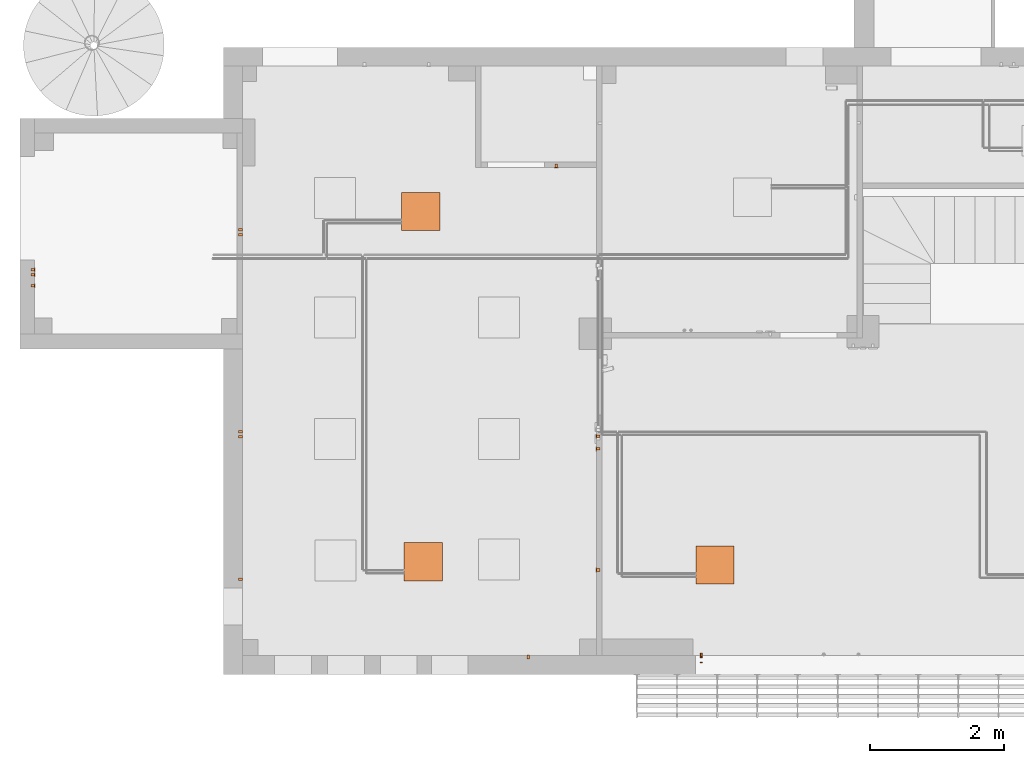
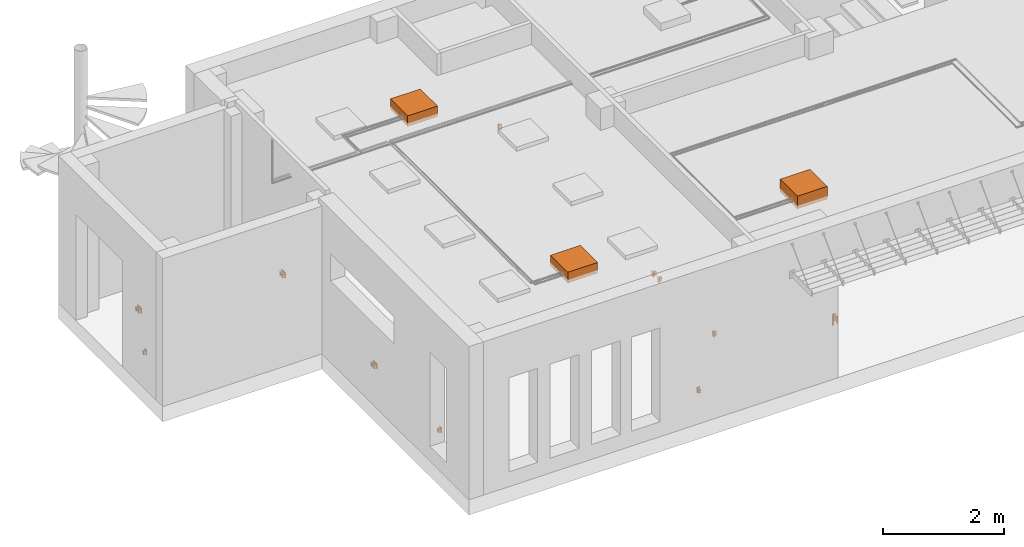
# One storey, part 20 of 24: 17 proxies.
"""IFC2X3 building model written with IfcOpenShell, lengths in millimetres."""

import ifcopenshell
import ifcopenshell.guid

model = None  # the IFC model being written
_history = None  # IfcOwnerHistory: only IFC2X3 demands one
_inside = {}  # id of a spatial element -> (the spatial element, [elements in it])
_under = {}  # id of a project, library or spatial element -> (it, [spatial elements below it])
_declared = {}  # id of a project -> (the project, [libraries it declares])
_typed = {}  # id of a type object -> (the type object, [elements of that type])
_made_of = {}  # id of a material, layer set ... -> (it, [elements and type objects made of it])


def new_model(schema):
    """Start an empty IFC model of exactly this schema.

    Asked for "IFC4X3", IfcOpenShell would pick the latest addendum, in which some entities
    have other attributes; the version numbers below select the first issue.
    IFC2X3 requires an IfcOwnerHistory on every rooted entity: one is made here for all.
    """
    global model, _history
    if schema == "IFC4X3":
        model = ifcopenshell.file(schema_version=(4, 3, 0, 0))
    else:
        model = ifcopenshell.file(schema=schema)
    _inside.clear()
    _under.clear()
    _declared.clear()
    _typed.clear()
    _made_of.clear()
    _history = None
    if model.schema == "IFC2X3":
        org = make("IfcOrganization", Name="unknown")
        user = make(
            "IfcPersonAndOrganization",
            ThePerson=make("IfcPerson", FamilyName="unknown"),
            TheOrganization=org,
        )
        app = make(
            "IfcApplication",
            ApplicationDeveloper=org,
            Version="unknown",
            ApplicationFullName="unknown",
            ApplicationIdentifier="unknown",
        )
        _history = make(
            "IfcOwnerHistory",
            OwningUser=user,
            OwningApplication=app,
            ChangeAction="ADDED",
            CreationDate=0,
        )
    return model


def make(cls, **values):
    """One entity of the class cls with the attributes given. An attribute that is None is left unset."""
    return model.create_entity(
        cls, **{name: value for name, value in values.items() if value is not None}
    )


def entity(cls, *values):
    """Any entity or typed value of the class cls, its attributes in the order of the schema. None: left unset."""
    e = model.create_entity(cls)
    for i, value in enumerate(values):
        if value is not None:
            e[i] = value
    return e


def rooted(cls, **values):
    """An entity with a GlobalId (a new one), such as an element, a storey or a relation."""
    return make(cls, GlobalId=ifcopenshell.guid.new(), OwnerHistory=_history, **values)


def si_unit(unit_type, name, prefix=None):
    """IfcSIUnit, for example si_unit("LENGTHUNIT", "METRE", prefix="MILLI")."""
    return make("IfcSIUnit", UnitType=unit_type, Prefix=prefix, Name=name)


def converted_unit(unit_type, name, factor, base, dimensions=None, offset=None):
    """IfcConversionBasedUnit, such as the inch: factor (a typed value) times the base unit."""
    return make(
        "IfcConversionBasedUnit"
        if offset is None
        else "IfcConversionBasedUnitWithOffset",
        ConversionOffset=offset,
        Dimensions=None
        if dimensions is None
        else entity("IfcDimensionalExponents", *dimensions),
        UnitType=unit_type,
        Name=name,
        ConversionFactor=make(
            "IfcMeasureWithUnit", ValueComponent=factor, UnitComponent=base
        ),
    )


def derived_unit(unit_type, elements):
    """IfcDerivedUnit: a product of units, each with its exponent."""
    return make(
        "IfcDerivedUnit",
        Elements=[
            make("IfcDerivedUnitElement", Unit=unit, Exponent=power)
            for unit, power in elements
        ],
        UnitType=unit_type,
    )


def assignment(units):
    """IfcUnitAssignment: the units of a project."""
    return None if units is None else make("IfcUnitAssignment", Units=units)


def point(xyz):
    """IfcCartesianPoint."""
    return None if xyz is None else make("IfcCartesianPoint", Coordinates=xyz)


def direction(xyz):
    """IfcDirection."""
    return None if xyz is None else make("IfcDirection", DirectionRatios=xyz)


def frame(location, z_axis=None, x_axis=None):
    """IfcAxis2Placement3D, a coordinate frame: its origin and axes. An axis left out is left unset."""
    return make(
        "IfcAxis2Placement3D",
        Location=point(location),
        Axis=direction(z_axis),
        RefDirection=direction(x_axis),
    )


def frame_2d(location, x_axis=None):
    """IfcAxis2Placement2D, a coordinate frame in the plane: its origin and x axis."""
    return make(
        "IfcAxis2Placement2D", Location=point(location), RefDirection=direction(x_axis)
    )


def origin():
    """The frame at (0, 0, 0) with its axes left unset."""
    return frame((0.0, 0.0, 0.0))


def origin_2d_with_axis():
    """The frame at (0, 0) in the plane with the x axis (1, 0) written out."""
    return frame_2d((0.0, 0.0), x_axis=(1.0, 0.0))


def place(relative_to, where):
    """IfcLocalPlacement: puts the frame where relative to a parent placement (None: the world)."""
    return make(
        "IfcLocalPlacement", PlacementRelTo=relative_to, RelativePlacement=where
    )


def context(
    kind, dimensions, precision=None, world=None, true_north=None, identifier=None
):
    """IfcGeometricRepresentationContext, for example the 3D "Model" context."""
    return make(
        "IfcGeometricRepresentationContext",
        ContextIdentifier=identifier,
        ContextType=kind,
        CoordinateSpaceDimension=dimensions,
        Precision=precision,
        WorldCoordinateSystem=world,
        TrueNorth=true_north,
    )


def subcontext(parent, identifier, kind, view, scale=None):
    """IfcGeometricRepresentationSubContext, for example "Body" below "Model"."""
    return make(
        "IfcGeometricRepresentationSubContext",
        ContextIdentifier=identifier,
        ContextType=kind,
        ParentContext=parent,
        TargetScale=scale,
        TargetView=view,
    )


def project(units=None, contexts=None):
    """IfcProject with its units and contexts."""
    return rooted(
        "IfcProject",
        Name="project",
        RepresentationContexts=contexts,
        UnitsInContext=assignment(units),
    )


def spatial(cls, under=None, at=None, **own):
    """A site, building, storey or space (cls), placed at a placement, below another one or the project."""
    s = rooted(cls, ObjectPlacement=at, **own)
    if under is not None:
        _under.setdefault(under.id(), (under, []))[1].append(s)
    return s


def polyline(points):
    """IfcPolyline through the points."""
    return make("IfcPolyline", Points=[point(p) for p in points])


def circle_curve(where, radius):
    """IfcCircle in the frame where."""
    return make("IfcCircle", Position=where, Radius=radius)


def parameter(value):
    """IfcParameterValue: where a trimmed curve begins or ends, as a parameter of its basis curve."""
    return model.create_entity("IfcParameterValue", value)


def trimmed(basis, trim1, trim2, sense, master):
    """IfcTrimmedCurve: the piece of a basis curve between two trims."""
    return make(
        "IfcTrimmedCurve",
        BasisCurve=basis,
        Trim1=trim1,
        Trim2=trim2,
        SenseAgreement=sense,
        MasterRepresentation=master,
    )


def segment(curve, same_sense, transition):
    """IfcCompositeCurveSegment."""
    return make(
        "IfcCompositeCurveSegment",
        Transition=transition,
        SameSense=same_sense,
        ParentCurve=curve,
    )


def composite_curve(segments, self_intersect=None):
    """IfcCompositeCurve: segments joined end to end."""
    return make("IfcCompositeCurve", Segments=segments, SelfIntersect=self_intersect)


def profile(cls, at=None, kind="AREA", **sizes):
    """A parametric profile (cls). Its sizes go by their IFC names, for example OverallWidth=200.0."""
    return make(cls, ProfileType=kind, Position=at, **sizes)


def rectangle(**sizes):
    """IfcRectangleProfileDef."""
    return profile("IfcRectangleProfileDef", **sizes)


def outline(outer, holes=None, kind="AREA"):
    """IfcArbitraryClosedProfileDef: a profile drawn as a closed curve; with holes, ...WithVoids."""
    if holes is None:
        return make("IfcArbitraryClosedProfileDef", ProfileType=kind, OuterCurve=outer)
    return make(
        "IfcArbitraryProfileDefWithVoids",
        ProfileType=kind,
        OuterCurve=outer,
        InnerCurves=holes,
    )


def extrude(swept, where, along, depth):
    """IfcExtrudedAreaSolid: the profile swept, set in the frame where, extruded along a direction by depth."""
    return make(
        "IfcExtrudedAreaSolid",
        SweptArea=swept,
        Position=where,
        ExtrudedDirection=direction(along),
        Depth=depth,
    )


def shape(context_of_items, identifier, shape_type, items):
    """IfcShapeRepresentation: the items that make up one representation, for example the "Body"."""
    return make(
        "IfcShapeRepresentation",
        ContextOfItems=context_of_items,
        RepresentationIdentifier=identifier,
        RepresentationType=shape_type,
        Items=items,
    )


def source(mapping_origin, context_of_items, identifier, shape_type, items):
    """IfcRepresentationMap: a shape defined once, which mapped items show again and again."""
    return make(
        "IfcRepresentationMap",
        MappingOrigin=mapping_origin,
        MappedRepresentation=shape(context_of_items, identifier, shape_type, items),
    )


def transform(
    local_origin,
    x_axis=None,
    y_axis=None,
    z_axis=None,
    scale=None,
    scale2=None,
    scale3=None,
    uniform=True,
):
    """IfcCartesianTransformationOperator3D, or its non-uniform kind. x_axis, y_axis, z_axis: its Axis1, 2, 3."""
    if uniform:
        return make(
            "IfcCartesianTransformationOperator3D",
            Axis1=direction(x_axis),
            Axis2=direction(y_axis),
            LocalOrigin=point(local_origin),
            Scale=scale,
            Axis3=direction(z_axis),
        )
    return make(
        "IfcCartesianTransformationOperator3DnonUniform",
        Axis1=direction(x_axis),
        Axis2=direction(y_axis),
        LocalOrigin=point(local_origin),
        Scale=scale,
        Axis3=direction(z_axis),
        Scale2=scale2,
        Scale3=scale3,
    )


def mapped(mapping_source, mapping_target):
    """IfcMappedItem: shows the shape of a source again, moved by a transform."""
    return make(
        "IfcMappedItem", MappingSource=mapping_source, MappingTarget=mapping_target
    )


def material(Name=None, Category=None):
    """IfcMaterial."""
    return make("IfcMaterial", Name=Name, Category=Category)


def material_list(materials):
    """IfcMaterialList."""
    return make("IfcMaterialList", Materials=materials)


def made_of(thing, what):
    """Note that an element or type object is made of a material, layer set ...; save() writes the relation."""
    if what is not None:
        _made_of.setdefault(what.id(), (what, []))[1].append(thing)
    return thing


def type_object(cls, material=None, **own):
    """A type object (cls), such as IfcWallType, which elements share."""
    return made_of(rooted(cls, **own), material)


def type_shapes(of_type, sources):
    """Give a type object the sources (RepresentationMaps) that its elements show as mapped items."""
    of_type.RepresentationMaps = sources


def element(
    cls,
    number,
    at=None,
    inside=None,
    cuts=None,
    type_object=None,
    material=None,
    context=None,
    identifier="Body",
    shape_type=None,
    held_by="IfcProductDefinitionShape",
    body=None,
    shapes=None,
    **own,
):
    """One element of the class cls, such as IfcWall. Its Tag is "e" and its number.

    at: its placement. inside: the storey or other place that contains it. cuts: it is an
    opening in that element (IfcRelVoidsElement). A single representation is given by context,
    identifier, shape_type and body (its items); several are given by shapes. held_by: the class
    of the entity that holds the representations. save() writes the other relations.
    """
    e = rooted(cls, Tag="e%d" % number, ObjectPlacement=at, **own)
    if body is not None:
        shapes = [shape(context, identifier, shape_type, body)]
    if shapes is not None:
        e.Representation = make(held_by, Representations=shapes)
    if inside is not None:
        _inside.setdefault(inside.id(), (inside, []))[1].append(e)
    if cuts is not None:
        rooted(
            "IfcRelVoidsElement", RelatingBuildingElement=cuts, RelatedOpeningElement=e
        )
    if type_object is not None:
        _typed.setdefault(type_object.id(), (type_object, []))[1].append(e)
    return made_of(e, material)


def aggregate(whole, parts):
    """IfcRelAggregates: a whole, such as a stair, and the parts it consists of."""
    return rooted("IfcRelAggregates", RelatingObject=whole, RelatedObjects=parts)


def save(model, path):
    """Write the relations noted so far, then the file.

    IfcRelAggregates (storeys below a building ...), IfcRelContainedInSpatialStructure (elements
    in a storey), IfcRelDefinesByType, IfcRelAssociatesMaterial and IfcRelDeclares: one each for
    every whole, place, type object, material and project.
    """
    for whole, parts in _under.values():
        aggregate(whole, parts)
    for where, things in _inside.values():
        rooted(
            "IfcRelContainedInSpatialStructure",
            RelatedElements=things,
            RelatingStructure=where,
        )
    for kind, things in _typed.values():
        rooted("IfcRelDefinesByType", RelatedObjects=things, RelatingType=kind)
    for what, things in _made_of.values():
        rooted("IfcRelAssociatesMaterial", RelatedObjects=things, RelatingMaterial=what)
    for by, libraries in _declared.values():
        rooted("IfcRelDeclares", RelatingContext=by, RelatedDefinitions=libraries)
    model.write(path)


model = new_model("IFC2X3")

# Units and contexts
model_context = context("Model", 3, precision=0.01, world=origin(), true_north=direction((6.123031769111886e-17, 1.0)))
body_context = subcontext(model_context, "Body", "Model", "MODEL_VIEW")
ifc_project = project(units=[si_unit("LENGTHUNIT", "METRE", prefix="MILLI"), si_unit("AREAUNIT", "SQUARE_METRE"), si_unit("VOLUMEUNIT", "CUBIC_METRE"), converted_unit("PLANEANGLEUNIT", "DEGREE", entity("IfcRatioMeasure", 0.017453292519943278), si_unit("PLANEANGLEUNIT", "RADIAN"), dimensions=[0, 0, 0, 0, 0, 0, 0]), si_unit("MASSUNIT", "GRAM", prefix="KILO"), derived_unit("MASSDENSITYUNIT", [(si_unit("MASSUNIT", "GRAM", prefix="KILO"), 1), (si_unit("LENGTHUNIT", "METRE"), -3)]), derived_unit("MOMENTOFINERTIAUNIT", [(si_unit("LENGTHUNIT", "METRE"), 4)]), si_unit("TIMEUNIT", "SECOND"), si_unit("FREQUENCYUNIT", "HERTZ"), si_unit("THERMODYNAMICTEMPERATUREUNIT", "DEGREE_CELSIUS"), derived_unit("THERMALTRANSMITTANCEUNIT", [(si_unit("MASSUNIT", "GRAM", prefix="KILO"), 1), (si_unit("THERMODYNAMICTEMPERATUREUNIT", "KELVIN"), -1), (si_unit("TIMEUNIT", "SECOND"), -3)]), derived_unit("VOLUMETRICFLOWRATEUNIT", [(si_unit("LENGTHUNIT", "METRE"), 3), (si_unit("TIMEUNIT", "SECOND"), -1)]), derived_unit("MASSFLOWRATEUNIT", [(si_unit("MASSUNIT", "GRAM", prefix="KILO"), 1), (si_unit("TIMEUNIT", "SECOND"), -1)]), derived_unit("ROTATIONALFREQUENCYUNIT", [(si_unit("TIMEUNIT", "SECOND"), -1)]), si_unit("ELECTRICCURRENTUNIT", "AMPERE"), si_unit("ELECTRICVOLTAGEUNIT", "VOLT"), si_unit("POWERUNIT", "WATT"), si_unit("FORCEUNIT", "NEWTON", prefix="KILO"), si_unit("ILLUMINANCEUNIT", "LUX"), si_unit("LUMINOUSFLUXUNIT", "LUMEN"), si_unit("LUMINOUSINTENSITYUNIT", "CANDELA"), derived_unit("USERDEFINED", [(si_unit("MASSUNIT", "GRAM", prefix="KILO"), -1), (si_unit("LENGTHUNIT", "METRE"), -2), (si_unit("TIMEUNIT", "SECOND"), 3), (si_unit("LUMINOUSFLUXUNIT", "LUMEN"), 1)]), derived_unit("SOUNDPOWERUNIT", [(si_unit("MASSUNIT", "GRAM", prefix="KILO"), 1), (si_unit("LENGTHUNIT", "METRE"), 2), (si_unit("TIMEUNIT", "SECOND"), -3)]), derived_unit("SOUNDPRESSUREUNIT", [(si_unit("MASSUNIT", "GRAM", prefix="KILO"), 1), (si_unit("LENGTHUNIT", "METRE"), -1), (si_unit("TIMEUNIT", "SECOND"), -2)]), derived_unit("LINEARVELOCITYUNIT", [(si_unit("LENGTHUNIT", "METRE"), 1), (si_unit("TIMEUNIT", "SECOND"), -1)]), si_unit("PRESSUREUNIT", "PASCAL"), derived_unit("USERDEFINED", [(si_unit("LENGTHUNIT", "METRE"), -2), (si_unit("MASSUNIT", "GRAM", prefix="KILO"), 1), (si_unit("TIMEUNIT", "SECOND"), -2)]), derived_unit("LINEARFORCEUNIT", [(si_unit("MASSUNIT", "GRAM", prefix="KILO"), 1), (si_unit("LENGTHUNIT", "METRE"), 1), (si_unit("TIMEUNIT", "SECOND"), -2), (si_unit("LENGTHUNIT", "METRE"), -1)]), derived_unit("PLANARFORCEUNIT", [(si_unit("MASSUNIT", "GRAM", prefix="KILO"), 1), (si_unit("LENGTHUNIT", "METRE"), 1), (si_unit("TIMEUNIT", "SECOND"), -2), (si_unit("LENGTHUNIT", "METRE"), -2)])], contexts=[model_context])

# Site, building, storey
site_placement = place(None, origin())
site = spatial("IfcSite", under=ifc_project, at=site_placement, Name="Default", CompositionType="ELEMENT")
building_placement = place(site_placement, origin())
building = spatial("IfcBuilding", under=site, at=building_placement, CompositionType="ELEMENT")
storey_placement = place(building_placement, origin())
storey = spatial("IfcBuildingStorey", under=building, at=storey_placement, Name="Level 1", CompositionType="ELEMENT", Elevation=0.0)

# Proxies
ifc_material_1 = material(Name="Polished Steel")
ifc_material_list_1 = material_list([ifc_material_1, ifc_material_1, ifc_material_1, ifc_material_1, ifc_material_1, ifc_material_1, ifc_material_1, ifc_material_1, ifc_material_1])
ifc_material_list_2 = material_list([ifc_material_1, ifc_material_1, ifc_material_1, ifc_material_1, ifc_material_1, ifc_material_1, ifc_material_1, ifc_material_1, ifc_material_1])
building_element_proxy_type_1 = type_object("IfcBuildingElementProxyType", Name="Alumil Chic:Alumil Chic:Alumil Chic : Alumil Chic:Alumil Chic", PredefinedType="NOTDEFINED", material=ifc_material_list_2)
shared_shape_1 = source(origin(), body_context, "Body", "SweptSolid", [
    extrude(outline(polyline([(-17.0, -63.18070480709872), (17.0, -63.18070480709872), (17.0, 63.180704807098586), (-17.0, 63.180704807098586), (-17.0, -63.18070480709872)]), holes=[composite_curve([segment(polyline([(-7.5, 49.659319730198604), (7.5, 49.659319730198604)]), True, "CONTINUOUS"), segment(trimmed(circle_curve(frame_2d((7.5, 44.659319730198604), x_axis=(-1.0, 0.0)), 5.0), [parameter(179.99999999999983)], [parameter(269.9999999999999)], True, "PARAMETER"), False, "CONTINUOUS"), segment(polyline([(12.5, 44.659319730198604), (12.5, -23.30226200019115)]), True, "CONTINUOUS"), segment(trimmed(circle_curve(frame_2d((7.5, -23.30226200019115), x_axis=(-1.0, 0.0)), 5.0), [parameter(90.00000000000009)], [parameter(179.99999999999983)], True, "PARAMETER"), False, "CONTINUOUS"), segment(polyline([(7.5, -28.302262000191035), (-7.5, -28.302262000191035)]), True, "CONTINUOUS"), segment(trimmed(circle_curve(frame_2d((-7.5, -23.30226200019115), x_axis=(-1.0, 0.0)), 5.0), [parameter(0.0)], [parameter(90.00000000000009)], True, "PARAMETER"), False, "CONTINUOUS"), segment(polyline([(-12.5, -23.30226200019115), (-12.5, 44.659319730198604)]), True, "CONTINUOUS"), segment(trimmed(circle_curve(frame_2d((-7.5, 44.659319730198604), x_axis=(-1.0, 0.0)), 5.0), [parameter(269.9999999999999)], [parameter(0.0)], True, "PARAMETER"), False, "CONTINUOUS")], self_intersect=False)]), frame((-2290.35591074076, -3899.7664474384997, 1036.8192951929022), z_axis=(0.0, 1.0, 0.0), x_axis=(-1.0, 0.0, 0.0)), (0.0, 0.0, 1.0), 4.013253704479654),
    extrude(outline(composite_curve([segment(trimmed(circle_curve(frame_2d((-7.5, -33.980790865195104), x_axis=(1.0, 0.0)), 4.0), [parameter(180.00000000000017)], [parameter(269.9999999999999)], True, "PARAMETER"), True, "CONTINUOUS"), segment(polyline([(-7.5, -37.980790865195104), (7.5, -37.980790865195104)]), True, "CONTINUOUS"), segment(trimmed(circle_curve(frame_2d((7.5, -33.980790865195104), x_axis=(1.0, 0.0)), 4.0), [parameter(269.9999999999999)], [parameter(0.0)], True, "PARAMETER"), True, "CONTINUOUS"), segment(polyline([(11.5, -33.980790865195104), (11.5, 33.98079086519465)]), True, "CONTINUOUS"), segment(trimmed(circle_curve(frame_2d((7.5, 33.98079086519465), x_axis=(1.0, 0.0)), 4.0), [parameter(0.0)], [parameter(90.00000000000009)], True, "PARAMETER"), True, "CONTINUOUS"), segment(polyline([(7.5, 37.98079086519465), (-7.5, 37.98079086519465)]), True, "CONTINUOUS"), segment(trimmed(circle_curve(frame_2d((-7.5, 33.98079086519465), x_axis=(1.0, 0.0)), 4.0), [parameter(90.00000000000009)], [parameter(180.00000000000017)], True, "PARAMETER"), True, "CONTINUOUS"), segment(polyline([(-11.5, 33.98079086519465), (-11.5, -33.980790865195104)]), True, "CONTINUOUS")], self_intersect=False)), frame((-2290.35591074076, -3899.7664474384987, 1047.4978240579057), z_axis=(0.0, 1.0, 0.0), x_axis=(1.0, 0.0, 0.0)), (0.0, 0.0, 1.0), 4.013253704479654),
    extrude(rectangle(XDim=14.085299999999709, YDim=33.99999999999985, at=frame_2d((-5.413447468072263e-13, 0.0), x_axis=(1.0, 0.0))), frame((-2290.35591074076, -3818.795843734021, 973.6385903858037), z_axis=(0.0, 0.0, 1.0), x_axis=(0.0, -1.0, 0.0)), (0.0, 0.0, 1.0), 126.36140961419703),
    extrude(outline(composite_curve([segment(trimmed(circle_curve(frame_2d((8.939850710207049, -9.376473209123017), x_axis=(-0.7071067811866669, -0.7071067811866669)), 0.535018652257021), [parameter(0.0)], [parameter(90.00000000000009)], True, "PARAMETER"), True, "CONTINUOUS"), segment(polyline([(9.318166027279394, -9.754788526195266), (10.351660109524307, -8.72129444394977)]), True, "CONTINUOUS"), segment(polyline([(10.351660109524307, -8.72129444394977), (-8.72113109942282, 10.351496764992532)]), True, "CONTINUOUS"), segment(polyline([(-8.72113109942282, 10.351496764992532), (-9.755115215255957, 9.317512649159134)]), True, "CONTINUOUS"), segment(trimmed(circle_curve(frame_2d((-9.377289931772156, 8.939687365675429), x_axis=(-0.7071067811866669, -0.7071067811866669)), 0.5343256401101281), [parameter(269.9999999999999)], [parameter(0.0)], True, "PARAMETER"), True, "CONTINUOUS"), segment(polyline([(-9.755115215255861, 8.561862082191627), (8.561535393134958, -9.754788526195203)]), True, "CONTINUOUS")], self_intersect=False)), frame((-2303.35591074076, -3810.600351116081, 1061.7502748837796), z_axis=(1.0, 0.0, 0.0), x_axis=(0.0, -0.7071067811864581, 0.707106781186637)), (0.0, 0.0, 1.0), 26.000000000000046),
    extrude(outline(composite_curve([segment(polyline([(-123.48954396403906, -32.459610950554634), (-98.0397724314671, -32.459610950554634)]), True, "CONTINUOUS"), segment(trimmed(circle_curve(frame_2d((-98.0397724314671, -31.709728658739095), x_axis=(0.0, 1.0)), 0.7498822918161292), [parameter(180.00000000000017)], [parameter(268.5005006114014)], True, "PARAMETER"), True, "CONTINUOUS"), segment(polyline([(-97.29014693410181, -31.729351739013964), (-96.4037593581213, 2.1317301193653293)]), True, "CONTINUOUS"), segment(trimmed(circle_curve(frame_2d((-91.40547158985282, 2.0008890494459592), x_axis=(0.0, 1.0)), 5.0), [parameter(0.0)], [parameter(88.50050061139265)], True, "PARAMETER"), False, "CONTINUOUS"), segment(polyline([(-91.40547158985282, 7.000889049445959), (101.87010285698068, 7.0008890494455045)]), True, "CONTINUOUS"), segment(trimmed(circle_curve(frame_2d((101.87010285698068, 3.399517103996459), x_axis=(0.0, 1.0)), 3.6013719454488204), [parameter(331.00000000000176)], [parameter(0.0)], True, "PARAMETER"), False, "CONTINUOUS"), segment(polyline([(103.61608262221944, 6.549347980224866), (110.61685898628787, 2.668754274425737)]), True, "CONTINUOUS"), segment(trimmed(circle_curve(frame_2d((111.31543601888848, 3.929020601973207), x_axis=(0.0, 1.0)), 1.44093063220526), [parameter(151.0000000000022)], [parameter(241.00000000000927)], True, "PARAMETER"), True, "CONTINUOUS"), segment(polyline([(112.57570234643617, 3.23044356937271), (117.30770550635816, 11.767203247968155)]), True, "CONTINUOUS"), segment(trimmed(circle_curve(frame_2d((116.3486328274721, 12.298825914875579), x_axis=(0.0, 1.0)), 1.09655964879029), [parameter(240.99999999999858)], [parameter(328.9999999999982)], True, "PARAMETER"), True, "CONTINUOUS"), segment(polyline([(116.9134027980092, 13.238760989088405), (109.40858564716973, 17.7481100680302)]), True, "CONTINUOUS"), segment(trimmed(circle_curve(frame_2d((103.13334236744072, 7.304351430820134), x_axis=(0.0, 1.0)), 12.184037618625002), [parameter(328.9999999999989)], [parameter(359.9999999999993)], True, "PARAMETER"), True, "CONTINUOUS"), segment(polyline([(103.13334236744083, 19.48838904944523), (-121.51095101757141, 19.488389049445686)]), True, "CONTINUOUS"), segment(trimmed(circle_curve(frame_2d((-121.51095101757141, 17.962186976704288), x_axis=(0.0, 1.0)), 1.52620207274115), [parameter(0.0)], [parameter(88.58270728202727)], True, "PARAMETER"), True, "CONTINUOUS"), segment(polyline([(-123.03668617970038, 17.99993590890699), (-124.2654516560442, -31.664268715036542)]), True, "CONTINUOUS"), segment(trimmed(circle_curve(frame_2d((-123.48954396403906, -31.683465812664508), x_axis=(0.0, 1.0)), 0.7761451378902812), [parameter(88.58270728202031)], [parameter(180.00000000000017)], True, "PARAMETER"), True, "CONTINUOUS")], self_intersect=False)), frame((-2302.8559107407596, -3777.296982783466, 950.9023619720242), z_axis=(1.0, 0.0, 0.0), x_axis=(0.0, 0.0, -1.0)), (0.0, 0.0, 1.0), 25.0),
    extrude(outline(composite_curve([segment(trimmed(circle_curve(frame_2d((0.0, 0.3125), x_axis=(1.0, 0.0)), 17.0), [parameter(181.05329056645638)], [parameter(358.94670943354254)], True, "PARAMETER"), True, "CONTINUOUS"), segment(polyline([(16.99712751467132, 0.0), (-16.99712751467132, 0.0)]), True, "CONTINUOUS")], self_intersect=False)), frame((-2290.35591074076, -3899.7664474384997, 1100.0), z_axis=(0.0, 1.0, 0.0), x_axis=(1.0, 0.0, 0.0)), (0.0, 0.0, 1.0), 4.013253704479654),
    extrude(outline(composite_curve([segment(polyline([(-17.0, 0.0), (17.0, 0.0)]), True, "CONTINUOUS"), segment(trimmed(circle_curve(origin_2d_with_axis(), 17.0), [parameter(0.0)], [parameter(180.00000000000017)], True, "PARAMETER"), True, "CONTINUOUS")], self_intersect=False)), frame((-2290.35591074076, -3899.7664474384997, 973.6385903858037), z_axis=(0.0, 1.0, 0.0), x_axis=(1.0, 0.0, 0.0)), (0.0, 0.0, 1.0), 4.013253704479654),
    extrude(outline(composite_curve([segment(trimmed(circle_curve(frame_2d((0.0, 0.3125), x_axis=(1.0, 0.0)), 17.0), [parameter(181.05329056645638)], [parameter(358.94670943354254)], True, "PARAMETER"), True, "CONTINUOUS"), segment(polyline([(16.99712751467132, 0.0), (-16.99712751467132, 0.0)]), True, "CONTINUOUS")], self_intersect=False)), frame((-2290.35591074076, -3825.8384937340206, 1100.0), z_axis=(0.0, 1.0, 0.0), x_axis=(1.0, 0.0, 0.0)), (0.0, 0.0, 1.0), 14.085299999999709),
    extrude(outline(composite_curve([segment(polyline([(-17.0, 0.0), (17.0, 0.0)]), True, "CONTINUOUS"), segment(trimmed(circle_curve(origin_2d_with_axis(), 17.0), [parameter(0.0)], [parameter(180.00000000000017)], True, "PARAMETER"), True, "CONTINUOUS")], self_intersect=False)), frame((-2290.35591074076, -3825.8384937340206, 973.6385903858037), z_axis=(0.0, 1.0, 0.0), x_axis=(1.0, 0.0, 0.0)), (0.0, 0.0, 1.0), 14.085299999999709),
])
type_shapes(building_element_proxy_type_1, [shared_shape_1])
proxy_1_placement = place(storey_placement, origin())
element("IfcBuildingElementProxy", 1, at=proxy_1_placement, inside=storey, type_object=building_element_proxy_type_1, material=ifc_material_list_1, Name="Alumil Chic:Alumil Chic:Alumil Chic : Alumil Chic:Alumil Chic:Alumil Chic:Alumil Chic : Alumil Chic:Alumil Chic : Alumil Chic:Alumil Chic:Alumil Chic : Alumil Chic:Alumil Chic", ObjectType="Alumil Chic:Alumil Chic:Alumil Chic : Alumil Chic:Alumil Chic:Alumil Chic:Alumil Chic : Alumil Chic:Alumil Chic : Alumil Chic:Alumil Chic:Alumil Chic : Alumil Chic:Alumil Chic", context=body_context, shape_type="MappedRepresentation", body=[
    mapped(shared_shape_1, transform((0.0, 0.0, 0.0), scale=1.0)),
])
ifc_material_2 = material(Name="<Unnamed>")
building_element_proxy_type_2 = type_object("IfcBuildingElementProxyType", Name="Indoor LG 4way simple box KRIPIS v3 SYSTEMS:ARNU12GTRC4:ARNU12GTRC4 : Indoor LG 4way simple box KRIPIS v3 SYSTEMS:ARNU12GTRC4", PredefinedType="NOTDEFINED", material=ifc_material_2)
shared_shape_2 = source(origin(), body_context, "Body", "SweptSolid", [
    extrude(rectangle(XDim=569.9999999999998, YDim=570.0000000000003, at=frame_2d((2.5579538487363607e-13, 0.0), x_axis=(1.0, 0.0))), frame((-6480.825634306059, 2837.61443282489, 2590.0), z_axis=(0.0, 0.0, 1.0), x_axis=(0.0, 1.0, 0.0)), (0.0, 0.0, 1.0), 214.00000000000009),
])
type_shapes(building_element_proxy_type_2, [shared_shape_2])
proxy_2_placement = place(storey_placement, origin())
element("IfcBuildingElementProxy", 2, at=proxy_2_placement, inside=storey, type_object=building_element_proxy_type_2, material=ifc_material_2, context=body_context, shape_type="MappedRepresentation", body=[
    mapped(shared_shape_2, transform((0.0, 0.0, 0.0), scale=1.0)),
])
building_element_proxy_type_3 = type_object("IfcBuildingElementProxyType", Name="Indoor LG 4way simple box KRIPIS v3 SYSTEMS:ARNU12GTRC4:ARNU12GTRC4 : Indoor LG 4way simple box KRIPIS v3 SYSTEMS:ARNU12GTRC4", PredefinedType="NOTDEFINED", material=ifc_material_2)
shared_shape_3 = source(origin(), body_context, "Body", "SweptSolid", [
    extrude(rectangle(XDim=570.0, YDim=570.0000000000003, at=frame_2d((-1.4210854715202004e-13, 0.0), x_axis=(1.0, 0.0))), frame((-6442.67710241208, -2392.80352202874, 2590.0), z_axis=(0.0, 0.0, 1.0), x_axis=(0.0, 1.0, 0.0)), (0.0, 0.0, 1.0), 214.00000000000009),
])
type_shapes(building_element_proxy_type_3, [shared_shape_3])
proxy_3_placement = place(storey_placement, origin())
element("IfcBuildingElementProxy", 3, at=proxy_3_placement, inside=storey, type_object=building_element_proxy_type_3, material=ifc_material_2, context=body_context, shape_type="MappedRepresentation", body=[
    mapped(shared_shape_3, transform((0.0, 0.0, 0.0), scale=1.0)),
])
ifc_material_list_3 = material_list([ifc_material_2, ifc_material_2])
ifc_material_list_4 = material_list([ifc_material_2, ifc_material_2])
building_element_proxy_type_4 = type_object("IfcBuildingElementProxyType", Name="M_Receptacle - 220V:Standard:Standard : M_Receptacle - 220V:Standard", PredefinedType="NOTDEFINED", material=ifc_material_list_4)
shared_shape_4 = source(origin(), body_context, "Body", "SweptSolid", [
    extrude(rectangle(XDim=38.09999999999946, YDim=53.97500000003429, at=frame_2d((-2.7000623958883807e-13, -5.400124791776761e-13), x_axis=(1.0, 0.0))), frame((-9172.324023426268, 2567.1615132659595, 421.89999999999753), z_axis=(0.0, 0.0, 1.0), x_axis=(0.0, -1.0, 0.0)), (0.0, 0.0, 1.0), 76.20000000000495),
    extrude(rectangle(XDim=69.84999999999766, YDim=4.762499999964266, at=frame_2d((-2.7355895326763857e-13, -5.415667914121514e-13), x_axis=(1.0, 0.0))), frame((-9142.955273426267, 2567.1615132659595, 402.84999999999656), z_axis=(0.0, 0.0, 1.0), x_axis=(0.0, -1.0, 0.0)), (0.0, 0.0, 1.0), 114.30000000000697),
])
type_shapes(building_element_proxy_type_4, [shared_shape_4])
proxy_4_placement = place(storey_placement, origin())
element("IfcBuildingElementProxy", 4, at=proxy_4_placement, inside=storey, type_object=building_element_proxy_type_4, material=ifc_material_list_3, Name="M_Receptacle - 220V:Standard:Standard : M_Receptacle - 220V:Standard:Standard:Standard : M_Receptacle - 220V:Standard : M_Receptacle - 220V:Standard:Standard : M_Receptacle - 220V:Standard", ObjectType="M_Receptacle - 220V:Standard:Standard : M_Receptacle - 220V:Standard:Standard:Standard : M_Receptacle - 220V:Standard : M_Receptacle - 220V:Standard:Standard : M_Receptacle - 220V:Standard", context=body_context, shape_type="MappedRepresentation", body=[
    mapped(shared_shape_4, transform((0.0, 0.0, 0.0), scale=1.0)),
])
ifc_material_list_5 = material_list([ifc_material_2, ifc_material_2])
ifc_material_list_6 = material_list([ifc_material_2, ifc_material_2])
building_element_proxy_type_5 = type_object("IfcBuildingElementProxyType", Name="M_Receptacle - 220V:Standard:Standard : M_Receptacle - 220V:Standard", PredefinedType="NOTDEFINED", material=ifc_material_list_6)
shared_shape_5 = source(origin(), body_context, "Body", "SweptSolid", [
    extrude(rectangle(XDim=38.09999999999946, YDim=53.97500000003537, at=frame_2d((-2.7000623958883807e-13, 0.0), x_axis=(1.0, 0.0))), frame((-9172.324023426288, 2493.6519729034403, 421.89999999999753), z_axis=(0.0, 0.0, 1.0), x_axis=(0.0, -1.0, 0.0)), (0.0, 0.0, 1.0), 76.20000000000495),
    extrude(rectangle(XDim=69.84999999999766, YDim=4.762499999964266, at=frame_2d((-2.7355895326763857e-13, 5.415667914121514e-13), x_axis=(1.0, 0.0))), frame((-9142.955273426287, 2493.6519729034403, 402.84999999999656), z_axis=(0.0, 0.0, 1.0), x_axis=(0.0, -1.0, 0.0)), (0.0, 0.0, 1.0), 114.30000000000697),
])
type_shapes(building_element_proxy_type_5, [shared_shape_5])
proxy_5_placement = place(storey_placement, origin())
element("IfcBuildingElementProxy", 5, at=proxy_5_placement, inside=storey, type_object=building_element_proxy_type_5, material=ifc_material_list_5, Name="M_Receptacle - 220V:Standard:Standard : M_Receptacle - 220V:Standard:Standard:Standard : M_Receptacle - 220V:Standard : M_Receptacle - 220V:Standard:Standard : M_Receptacle - 220V:Standard", ObjectType="M_Receptacle - 220V:Standard:Standard : M_Receptacle - 220V:Standard:Standard:Standard : M_Receptacle - 220V:Standard : M_Receptacle - 220V:Standard:Standard : M_Receptacle - 220V:Standard", context=body_context, shape_type="MappedRepresentation", body=[
    mapped(shared_shape_5, transform((0.0, 0.0, 0.0), scale=1.0)),
])
ifc_material_list_7 = material_list([ifc_material_2, ifc_material_2])
ifc_material_list_8 = material_list([ifc_material_2, ifc_material_2])
building_element_proxy_type_6 = type_object("IfcBuildingElementProxyType", Name="M_Receptacle - 220V:Standard:Standard : M_Receptacle - 220V:Standard", PredefinedType="NOTDEFINED", material=ifc_material_list_8)
shared_shape_6 = source(origin(), body_context, "Body", "SweptSolid", [
    extrude(rectangle(XDim=38.099999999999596, YDim=53.97500000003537, at=frame_2d((-6.750155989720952e-14, 0.0), x_axis=(1.0, 0.0))), frame((-9172.324023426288, -448.66586479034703, 421.89999999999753), z_axis=(0.0, 0.0, 1.0), x_axis=(0.0, -1.0, 0.0)), (0.0, 0.0, 1.0), 76.20000000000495),
    extrude(rectangle(XDim=69.84999999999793, YDim=4.762499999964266, at=frame_2d((0.0, 5.415667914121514e-13), x_axis=(1.0, 0.0))), frame((-9142.955273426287, -448.665864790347, 402.84999999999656), z_axis=(0.0, 0.0, 1.0), x_axis=(0.0, -1.0, 0.0)), (0.0, 0.0, 1.0), 114.30000000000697),
])
type_shapes(building_element_proxy_type_6, [shared_shape_6])
proxy_6_placement = place(storey_placement, origin())
element("IfcBuildingElementProxy", 6, at=proxy_6_placement, inside=storey, type_object=building_element_proxy_type_6, material=ifc_material_list_7, Name="M_Receptacle - 220V:Standard:Standard : M_Receptacle - 220V:Standard:Standard:Standard : M_Receptacle - 220V:Standard : M_Receptacle - 220V:Standard:Standard : M_Receptacle - 220V:Standard", ObjectType="M_Receptacle - 220V:Standard:Standard : M_Receptacle - 220V:Standard:Standard:Standard : M_Receptacle - 220V:Standard : M_Receptacle - 220V:Standard:Standard : M_Receptacle - 220V:Standard", context=body_context, shape_type="MappedRepresentation", body=[
    mapped(shared_shape_6, transform((0.0, 0.0, 0.0), scale=1.0)),
])
ifc_material_list_9 = material_list([ifc_material_2, ifc_material_2])
ifc_material_list_10 = material_list([ifc_material_2, ifc_material_2])
building_element_proxy_type_7 = type_object("IfcBuildingElementProxyType", Name="M_Receptacle - 220V:Standard:Standard : M_Receptacle - 220V:Standard", PredefinedType="NOTDEFINED", material=ifc_material_list_10)
shared_shape_7 = source(origin(), body_context, "Body", "SweptSolid", [
    extrude(rectangle(XDim=38.099999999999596, YDim=53.97500000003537, at=origin_2d_with_axis()), frame((-9172.324023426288, -523.888268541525, 421.89999999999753), z_axis=(0.0, 0.0, 1.0), x_axis=(0.0, -1.0, 0.0)), (0.0, 0.0, 1.0), 76.20000000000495),
    extrude(rectangle(XDim=69.84999999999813, YDim=4.762499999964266, at=frame_2d((-3.552713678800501e-14, 5.415667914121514e-13), x_axis=(1.0, 0.0))), frame((-9142.955273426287, -523.888268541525, 402.84999999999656), z_axis=(0.0, 0.0, 1.0), x_axis=(0.0, -1.0, 0.0)), (0.0, 0.0, 1.0), 114.30000000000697),
])
type_shapes(building_element_proxy_type_7, [shared_shape_7])
proxy_7_placement = place(storey_placement, origin())
element("IfcBuildingElementProxy", 7, at=proxy_7_placement, inside=storey, type_object=building_element_proxy_type_7, material=ifc_material_list_9, Name="M_Receptacle - 220V:Standard:Standard : M_Receptacle - 220V:Standard:Standard:Standard : M_Receptacle - 220V:Standard : M_Receptacle - 220V:Standard:Standard : M_Receptacle - 220V:Standard", ObjectType="M_Receptacle - 220V:Standard:Standard : M_Receptacle - 220V:Standard:Standard:Standard : M_Receptacle - 220V:Standard : M_Receptacle - 220V:Standard:Standard : M_Receptacle - 220V:Standard", context=body_context, shape_type="MappedRepresentation", body=[
    mapped(shared_shape_7, transform((0.0, 0.0, 0.0), scale=1.0)),
])
ifc_material_list_11 = material_list([ifc_material_2, ifc_material_2])
ifc_material_list_12 = material_list([ifc_material_2, ifc_material_2])
building_element_proxy_type_8 = type_object("IfcBuildingElementProxyType", Name="M_Receptacle - 220V:Standard:Standard : M_Receptacle - 220V:Standard", PredefinedType="NOTDEFINED", material=ifc_material_list_12)
shared_shape_8 = source(origin(), body_context, "Body", "SweptSolid", [
    extrude(rectangle(XDim=38.09999999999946, YDim=53.97500000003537, at=frame_2d((2.7000623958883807e-13, 0.0), x_axis=(1.0, 0.0))), frame((-9172.324023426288, -2653.8384867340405, 421.89999999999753), z_axis=(0.0, 0.0, 1.0), x_axis=(0.0, -1.0, 0.0)), (0.0, 0.0, 1.0), 76.20000000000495),
    extrude(rectangle(XDim=69.84999999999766, YDim=4.762499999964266, at=frame_2d((2.7355895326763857e-13, 5.415667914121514e-13), x_axis=(1.0, 0.0))), frame((-9142.955273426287, -2653.8384867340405, 402.84999999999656), z_axis=(0.0, 0.0, 1.0), x_axis=(0.0, -1.0, 0.0)), (0.0, 0.0, 1.0), 114.30000000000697),
])
type_shapes(building_element_proxy_type_8, [shared_shape_8])
proxy_8_placement = place(storey_placement, origin())
element("IfcBuildingElementProxy", 8, at=proxy_8_placement, inside=storey, type_object=building_element_proxy_type_8, material=ifc_material_list_11, Name="M_Receptacle - 220V:Standard:Standard : M_Receptacle - 220V:Standard:Standard:Standard : M_Receptacle - 220V:Standard : M_Receptacle - 220V:Standard:Standard : M_Receptacle - 220V:Standard", ObjectType="M_Receptacle - 220V:Standard:Standard : M_Receptacle - 220V:Standard:Standard:Standard : M_Receptacle - 220V:Standard : M_Receptacle - 220V:Standard:Standard : M_Receptacle - 220V:Standard", context=body_context, shape_type="MappedRepresentation", body=[
    mapped(shared_shape_8, transform((0.0, 0.0, 0.0), scale=1.0)),
])
ifc_material_list_13 = material_list([ifc_material_2, ifc_material_2])
ifc_material_list_14 = material_list([ifc_material_2, ifc_material_2])
building_element_proxy_type_9 = type_object("IfcBuildingElementProxyType", Name="M_Receptacle - 220V:Standard:Standard : M_Receptacle - 220V:Standard", PredefinedType="NOTDEFINED", material=ifc_material_list_14)
shared_shape_9 = source(origin(), body_context, "Body", "SweptSolid", [
    extrude(rectangle(XDim=38.1, YDim=53.97500000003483, at=frame_2d((0.0, 2.7000623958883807e-13), x_axis=(1.0, 0.0))), frame((-4877.35577874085, -3815.8259867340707, 421.89999999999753)), (0.0, 0.0, 1.0), 76.20000000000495),
    extrude(rectangle(XDim=69.84999999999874, YDim=4.762499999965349, at=frame_2d((-2.7000623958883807e-13, 0.0), x_axis=(1.0, 0.0))), frame((-4877.35577874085, -3786.4572367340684, 402.84999999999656)), (0.0, 0.0, 1.0), 114.30000000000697),
])
type_shapes(building_element_proxy_type_9, [shared_shape_9])
proxy_9_placement = place(storey_placement, origin())
element("IfcBuildingElementProxy", 9, at=proxy_9_placement, inside=storey, type_object=building_element_proxy_type_9, material=ifc_material_list_13, Name="M_Receptacle - 220V:Standard:Standard : M_Receptacle - 220V:Standard:Standard:Standard : M_Receptacle - 220V:Standard : M_Receptacle - 220V:Standard:Standard : M_Receptacle - 220V:Standard", ObjectType="M_Receptacle - 220V:Standard:Standard : M_Receptacle - 220V:Standard:Standard:Standard : M_Receptacle - 220V:Standard : M_Receptacle - 220V:Standard:Standard : M_Receptacle - 220V:Standard", context=body_context, shape_type="MappedRepresentation", body=[
    mapped(shared_shape_9, transform((0.0, 0.0, 0.0), scale=1.0)),
])
ifc_material_list_15 = material_list([ifc_material_2, ifc_material_2])
ifc_material_list_16 = material_list([ifc_material_2, ifc_material_2])
building_element_proxy_type_10 = type_object("IfcBuildingElementProxyType", Name="M_Receptacle - 220V:Standard:Standard : M_Receptacle - 220V:Standard", PredefinedType="NOTDEFINED", material=ifc_material_list_16)
shared_shape_10 = source(origin(), body_context, "Body", "SweptSolid", [
    extrude(rectangle(XDim=38.09999999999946, YDim=53.97500000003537, at=frame_2d((2.7000623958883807e-13, 0.0), x_axis=(1.0, 0.0))), frame((-3830.3682787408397, -2516.389642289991, 421.89999999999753), z_axis=(0.0, 0.0, 1.0), x_axis=(0.0, 1.0, 0.0)), (0.0, 0.0, 1.0), 76.20000000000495),
    extrude(rectangle(XDim=69.84999999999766, YDim=4.762499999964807, at=frame_2d((-2.7355895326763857e-13, 2.708944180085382e-13), x_axis=(1.0, 0.0))), frame((-3859.7370287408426, -2516.38964228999, 402.84999999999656), z_axis=(0.0, 0.0, 1.0), x_axis=(0.0, 1.0, 0.0)), (0.0, 0.0, 1.0), 114.30000000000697),
])
type_shapes(building_element_proxy_type_10, [shared_shape_10])
proxy_10_placement = place(storey_placement, origin())
element("IfcBuildingElementProxy", 10, at=proxy_10_placement, inside=storey, type_object=building_element_proxy_type_10, material=ifc_material_list_15, Name="M_Receptacle - 220V:Standard:Standard : M_Receptacle - 220V:Standard:Standard:Standard : M_Receptacle - 220V:Standard : M_Receptacle - 220V:Standard:Standard : M_Receptacle - 220V:Standard", ObjectType="M_Receptacle - 220V:Standard:Standard : M_Receptacle - 220V:Standard:Standard:Standard : M_Receptacle - 220V:Standard : M_Receptacle - 220V:Standard:Standard : M_Receptacle - 220V:Standard", context=body_context, shape_type="MappedRepresentation", body=[
    mapped(shared_shape_10, transform((0.0, 0.0, 0.0), scale=1.0)),
])
ifc_material_list_17 = material_list([ifc_material_2, ifc_material_2])
ifc_material_list_18 = material_list([ifc_material_2, ifc_material_2])
building_element_proxy_type_11 = type_object("IfcBuildingElementProxyType", Name="M_Receptacle - 220V:Standard:Standard : M_Receptacle - 220V:Standard", PredefinedType="NOTDEFINED", material=ifc_material_list_18)
shared_shape_11 = source(origin(), body_context, "Body", "SweptSolid", [
    extrude(rectangle(XDim=38.09999999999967, YDim=53.97500000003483, at=frame_2d((3.375077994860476e-14, 2.7000623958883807e-13), x_axis=(1.0, 0.0))), frame((-3830.36827874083, -518.1965959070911, 421.89999999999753), z_axis=(0.0, 0.0, 1.0), x_axis=(0.0, 1.0, 0.0)), (0.0, 0.0, 1.0), 76.20000000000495),
    extrude(rectangle(XDim=69.849999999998, YDim=4.762499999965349, at=frame_2d((3.197442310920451e-14, 0.0), x_axis=(1.0, 0.0))), frame((-3859.7370287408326, -518.1965959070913, 402.84999999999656), z_axis=(0.0, 0.0, 1.0), x_axis=(0.0, 1.0, 0.0)), (0.0, 0.0, 1.0), 114.30000000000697),
])
type_shapes(building_element_proxy_type_11, [shared_shape_11])
proxy_11_placement = place(storey_placement, origin())
element("IfcBuildingElementProxy", 11, at=proxy_11_placement, inside=storey, type_object=building_element_proxy_type_11, material=ifc_material_list_17, Name="M_Receptacle - 220V:Standard:Standard : M_Receptacle - 220V:Standard:Standard:Standard : M_Receptacle - 220V:Standard : M_Receptacle - 220V:Standard:Standard : M_Receptacle - 220V:Standard", ObjectType="M_Receptacle - 220V:Standard:Standard : M_Receptacle - 220V:Standard:Standard:Standard : M_Receptacle - 220V:Standard : M_Receptacle - 220V:Standard:Standard : M_Receptacle - 220V:Standard", context=body_context, shape_type="MappedRepresentation", body=[
    mapped(shared_shape_11, transform((0.0, 0.0, 0.0), scale=1.0)),
])
ifc_material_list_19 = material_list([ifc_material_2, ifc_material_2])
ifc_material_list_20 = material_list([ifc_material_2, ifc_material_2])
building_element_proxy_type_12 = type_object("IfcBuildingElementProxyType", Name="M_Receptacle - 220V:Standard:Standard : M_Receptacle - 220V:Standard", PredefinedType="NOTDEFINED", material=ifc_material_list_20)
shared_shape_12 = source(origin(), body_context, "Body", "SweptSolid", [
    extrude(rectangle(XDim=38.09999999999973, YDim=53.97500000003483, at=frame_2d((0.0, 2.7000623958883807e-13), x_axis=(1.0, 0.0))), frame((-3830.36827874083, -708.59338589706, 421.89999999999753), z_axis=(0.0, 0.0, 1.0), x_axis=(0.0, 1.0, 0.0)), (0.0, 0.0, 1.0), 76.20000000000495),
    extrude(rectangle(XDim=69.8499999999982, YDim=4.762499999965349, at=origin_2d_with_axis()), frame((-3859.7370287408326, -708.5933858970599, 402.84999999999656), z_axis=(0.0, 0.0, 1.0), x_axis=(0.0, 1.0, 0.0)), (0.0, 0.0, 1.0), 114.30000000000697),
])
type_shapes(building_element_proxy_type_12, [shared_shape_12])
proxy_12_placement = place(storey_placement, origin())
element("IfcBuildingElementProxy", 12, at=proxy_12_placement, inside=storey, type_object=building_element_proxy_type_12, material=ifc_material_list_19, Name="M_Receptacle - 220V:Standard:Standard : M_Receptacle - 220V:Standard:Standard:Standard : M_Receptacle - 220V:Standard : M_Receptacle - 220V:Standard:Standard : M_Receptacle - 220V:Standard", ObjectType="M_Receptacle - 220V:Standard:Standard : M_Receptacle - 220V:Standard:Standard:Standard : M_Receptacle - 220V:Standard : M_Receptacle - 220V:Standard:Standard : M_Receptacle - 220V:Standard", context=body_context, shape_type="MappedRepresentation", body=[
    mapped(shared_shape_12, transform((0.0, 0.0, 0.0), scale=1.0)),
])
ifc_material_list_21 = material_list([ifc_material_2, ifc_material_2])
ifc_material_list_22 = material_list([ifc_material_2, ifc_material_2])
building_element_proxy_type_13 = type_object("IfcBuildingElementProxyType", Name="M_Lighting Switches:Single Pole:Single Pole : M_Lighting Switches:Single Pole", PredefinedType="NOTDEFINED", material=ifc_material_list_22)
shared_shape_13 = source(origin(), body_context, "Body", "SweptSolid", [
    extrude(rectangle(XDim=38.1, YDim=53.97500000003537, at=origin_2d_with_axis()), frame((-4457.35577874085, 3521.1066768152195, 1161.8999999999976), z_axis=(0.0, 0.0, 1.0), x_axis=(-1.0, 0.0, 0.0)), (0.0, 0.0, 1.0), 76.20000000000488),
    extrude(rectangle(XDim=69.8499999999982, YDim=4.762499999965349, at=origin_2d_with_axis()), frame((-4457.35577874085, 3491.737926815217, 1142.8499999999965), z_axis=(0.0, 0.0, 1.0), x_axis=(-1.0, 0.0, 0.0)), (0.0, 0.0, 1.0), 114.30000000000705),
])
type_shapes(building_element_proxy_type_13, [shared_shape_13])
proxy_13_placement = place(storey_placement, origin())
element("IfcBuildingElementProxy", 13, at=proxy_13_placement, inside=storey, type_object=building_element_proxy_type_13, material=ifc_material_list_21, Name="M_Lighting Switches:Single Pole:Single Pole : M_Lighting Switches:Single Pole:Single Pole:Single Pole : M_Lighting Switches:Single Pole : M_Lighting Switches:Single Pole:Single Pole : M_Lighting Switches:Single Pole", ObjectType="M_Lighting Switches:Single Pole:Single Pole : M_Lighting Switches:Single Pole:Single Pole:Single Pole : M_Lighting Switches:Single Pole : M_Lighting Switches:Single Pole:Single Pole : M_Lighting Switches:Single Pole", context=body_context, shape_type="MappedRepresentation", body=[
    mapped(shared_shape_13, transform((0.0, 0.0, 0.0), scale=1.0)),
])
building_element_proxy_type_14 = type_object("IfcBuildingElementProxyType", Name="Indoor LG 4way simple box KRIPIS v3 SYSTEMS:ARNU18GTQC4:ARNU18GTQC4 : Indoor LG 4way simple box KRIPIS v3 SYSTEMS:ARNU18GTQC4", PredefinedType="NOTDEFINED", material=ifc_material_2)
shared_shape_14 = source(origin(), body_context, "Body", "SweptSolid", [
    extrude(rectangle(XDim=570.0, YDim=569.9999999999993, at=frame_2d((-1.4210854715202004e-13, 0.0), x_axis=(1.0, 0.0))), frame((-2087.10993921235, -2443.8965935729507, 2590.0), z_axis=(0.0, 0.0, 1.0), x_axis=(0.0, 1.0, 0.0)), (0.0, 0.0, 1.0), 256.0000000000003),
])
type_shapes(building_element_proxy_type_14, [shared_shape_14])
proxy_14_placement = place(storey_placement, origin())
element("IfcBuildingElementProxy", 14, at=proxy_14_placement, inside=storey, type_object=building_element_proxy_type_14, material=ifc_material_2, context=body_context, shape_type="MappedRepresentation", body=[
    mapped(shared_shape_14, transform((0.0, 0.0, 0.0), scale=1.0)),
])
ifc_material_list_23 = material_list([ifc_material_2, ifc_material_2])
ifc_material_list_24 = material_list([ifc_material_2, ifc_material_2])
building_element_proxy_type_15 = type_object("IfcBuildingElementProxyType", Name="M_Weather Proof Receptacle:220 V:220 V : M_Weather Proof Receptacle:220 V", PredefinedType="NOTDEFINED", material=ifc_material_list_24)
shared_shape_15 = source(origin(), body_context, "Body", "SweptSolid", [
    extrude(rectangle(XDim=38.09999999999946, YDim=53.97500000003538, at=frame_2d((0.0, 1.0818013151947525e-12), x_axis=(1.0, 0.0))), frame((-12272.37329746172, 1727.1615132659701, 421.89999999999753), z_axis=(0.0, 0.0, 1.0), x_axis=(0.0, -1.0, 0.0)), (0.0, 0.0, 1.0), 76.20000000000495),
    extrude(rectangle(XDim=69.8499999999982, YDim=4.762499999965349, at=origin_2d_with_axis()), frame((-12243.004547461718, 1727.16151326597, 402.84999999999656), z_axis=(0.0, 0.0, 1.0), x_axis=(0.0, -1.0, 0.0)), (0.0, 0.0, 1.0), 114.30000000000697),
])
type_shapes(building_element_proxy_type_15, [shared_shape_15])
proxy_15_placement = place(storey_placement, origin())
element("IfcBuildingElementProxy", 15, at=proxy_15_placement, inside=storey, type_object=building_element_proxy_type_15, material=ifc_material_list_23, Name="M_Weather Proof Receptacle:220 V:220 V : M_Weather Proof Receptacle:220 V:220 V:220 V : M_Weather Proof Receptacle:220 V : M_Weather Proof Receptacle:220 V:220 V : M_Weather Proof Receptacle:220 V", ObjectType="M_Weather Proof Receptacle:220 V:220 V : M_Weather Proof Receptacle:220 V:220 V:220 V : M_Weather Proof Receptacle:220 V : M_Weather Proof Receptacle:220 V:220 V : M_Weather Proof Receptacle:220 V", context=body_context, shape_type="MappedRepresentation", body=[
    mapped(shared_shape_15, transform((0.0, 0.0, 0.0), scale=1.0)),
])
ifc_material_list_25 = material_list([ifc_material_2, ifc_material_2])
ifc_material_list_26 = material_list([ifc_material_2, ifc_material_2])
building_element_proxy_type_16 = type_object("IfcBuildingElementProxyType", Name="M_Lighting Switches:Single Pole:Single Pole : M_Lighting Switches:Single Pole", PredefinedType="NOTDEFINED", material=ifc_material_list_26)
shared_shape_16 = source(origin(), body_context, "Body", "SweptSolid", [
    extrude(rectangle(XDim=38.09999999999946, YDim=53.97500000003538, at=frame_2d((-2.7000623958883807e-13, 1.0818013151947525e-12), x_axis=(1.0, 0.0))), frame((-12272.37329746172, 1965.7182104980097, 1161.8999999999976), z_axis=(0.0, 0.0, 1.0), x_axis=(0.0, -1.0, 0.0)), (0.0, 0.0, 1.0), 76.20000000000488),
    extrude(rectangle(XDim=69.8499999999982, YDim=4.762499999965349, at=origin_2d_with_axis()), frame((-12243.004547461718, 1965.71821049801, 1142.8499999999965), z_axis=(0.0, 0.0, 1.0), x_axis=(0.0, -1.0, 0.0)), (0.0, 0.0, 1.0), 114.30000000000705),
])
type_shapes(building_element_proxy_type_16, [shared_shape_16])
proxy_16_placement = place(storey_placement, origin())
element("IfcBuildingElementProxy", 16, at=proxy_16_placement, inside=storey, type_object=building_element_proxy_type_16, material=ifc_material_list_25, Name="M_Lighting Switches:Single Pole:Single Pole : M_Lighting Switches:Single Pole:Single Pole:Single Pole : M_Lighting Switches:Single Pole : M_Lighting Switches:Single Pole:Single Pole : M_Lighting Switches:Single Pole", ObjectType="M_Lighting Switches:Single Pole:Single Pole : M_Lighting Switches:Single Pole:Single Pole:Single Pole : M_Lighting Switches:Single Pole : M_Lighting Switches:Single Pole:Single Pole : M_Lighting Switches:Single Pole", context=body_context, shape_type="MappedRepresentation", body=[
    mapped(shared_shape_16, transform((0.0, 0.0, 0.0), scale=1.0)),
])
ifc_material_list_27 = material_list([ifc_material_2, ifc_material_2])
ifc_material_list_28 = material_list([ifc_material_2, ifc_material_2])
building_element_proxy_type_17 = type_object("IfcBuildingElementProxyType", Name="M_Lighting Switches:Single Pole:Single Pole : M_Lighting Switches:Single Pole", PredefinedType="NOTDEFINED", material=ifc_material_list_28)
shared_shape_17 = source(origin(), body_context, "Body", "SweptSolid", [
    extrude(rectangle(XDim=38.09999999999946, YDim=53.97500000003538, at=frame_2d((0.0, 1.0818013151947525e-12), x_axis=(1.0, 0.0))), frame((-12272.37329746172, 1892.04513282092, 1161.8999999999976), z_axis=(0.0, 0.0, 1.0), x_axis=(0.0, -1.0, 0.0)), (0.0, 0.0, 1.0), 76.20000000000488),
    extrude(rectangle(XDim=69.8499999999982, YDim=4.762499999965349, at=origin_2d_with_axis()), frame((-12243.004547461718, 1892.04513282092, 1142.8499999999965), z_axis=(0.0, 0.0, 1.0), x_axis=(0.0, -1.0, 0.0)), (0.0, 0.0, 1.0), 114.30000000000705),
])
type_shapes(building_element_proxy_type_17, [shared_shape_17])
proxy_17_placement = place(storey_placement, origin())
element("IfcBuildingElementProxy", 17, at=proxy_17_placement, inside=storey, type_object=building_element_proxy_type_17, material=ifc_material_list_27, Name="M_Lighting Switches:Single Pole:Single Pole : M_Lighting Switches:Single Pole:Single Pole:Single Pole : M_Lighting Switches:Single Pole : M_Lighting Switches:Single Pole:Single Pole : M_Lighting Switches:Single Pole", ObjectType="M_Lighting Switches:Single Pole:Single Pole : M_Lighting Switches:Single Pole:Single Pole:Single Pole : M_Lighting Switches:Single Pole : M_Lighting Switches:Single Pole:Single Pole : M_Lighting Switches:Single Pole", context=body_context, shape_type="MappedRepresentation", body=[
    mapped(shared_shape_17, transform((0.0, 0.0, 0.0), scale=1.0)),
])

save(model, "model.ifc")
